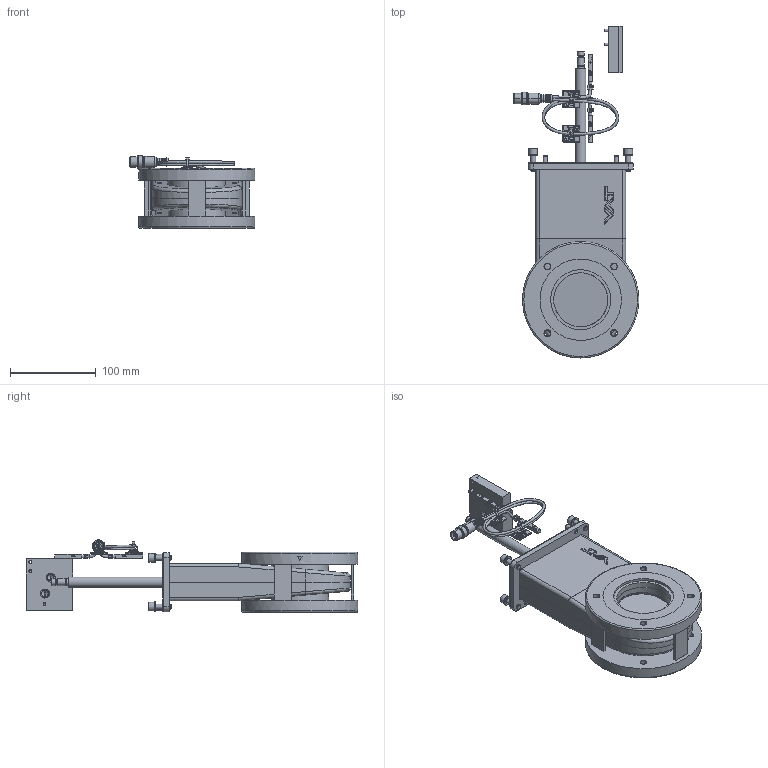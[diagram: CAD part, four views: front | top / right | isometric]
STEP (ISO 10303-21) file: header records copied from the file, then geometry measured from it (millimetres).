
FILE_DESCRIPTION(/* description */ (''),/* implementation_level */ '2;1');
FILE_NAME(/* name */ '1437840220_203.stp',/* time_stamp */ '2021-10-22T11:23:56+02:00',/* author */ (''),/* organization */ (''),/* preprocessor_version */ 'ST-DEVELOPER v16.7',/* originating_system */ 'SIEMENS PLM Software NX 1915',/* authorisation */ '');
FILE_SCHEMA (('AP203_CONFIGURATION_CONTROLLED_3D_DESIGN_OF_MECHANICAL_PARTS_AND_ASSEMBLIES_MIM_LF { 1 0 10303 403 2 1 2}'));
Length unit declared in the file: millimetre
Products named in the file (25): 359586.6_32895ID; 255554.2_32893ID; 359586.6_32421ID; 408099; 990068; 487660; 411636_32930ID; 957161; 343001.1; 1082168; 1041281; 251262.4; 255557.2; 255556.2_114268ID; 255556.2; 984070; 1085547; 255550.3; n-6134-408; 218189; 1081830_NX-ARRAGMNTDN050/63, Standard v3 ; 1004802_NX-ARRAGMNTopen ohne SV; 359599.5_NX-ARRAGMNTZusammenstellung_STANDARD; 359604.6; 1095386
Assembly tree (39 placements, depth 4):
  1095386
    218189  x4
    n-6134-408  x4
    255550.3
    359604.6
      255556.2
      255556.2_114268ID
      359599.5_NX-ARRAGMNTZusammenstellung_STANDARD
        359586.6_32421ID
        255554.2_32893ID
        359586.6_32895ID
      255557.2  x2
      251262.4  x3
    1004802_NX-ARRAGMNTopen ohne SV
      1041281
      1082168
      343001.1  x2
      957161  x2
    1081830_NX-ARRAGMNTDN050/63, Standard v3 
      411636_32930ID
      487660  x2
      990068
      408099  x2
    1085547  x2
    984070  x2
Bounding box: 146.8 x 387.5 x 84.4 mm (x, y, z)
Volume: 646254.3 mm3; surface area: 367720.7 mm2
Topology: 50 solids, 50 shells, 2194 faces, 5573 edges, 3550 vertices
Faces by surface type: plane 1128, cylinder 500, bspline 242, cone 128, torus 84, sphere 52, extrusion 48, revolution 12
Full cylindrical faces by diameter (mm): 2.46 x2, 2.5 x2, 2.9 x2, 3 x4, 3.5 x1, 4 x2, 4.96 x4, 5 x13, 5.2 x2, 5.22 x4, 5.5 x2, 6 x9, 6.4 x5, 6.5 x5, 7.2 x8, 8 x3, 10 x4, 11 x5, 12 x1, 25.345 x1, 63.1 x4, 63.35 x6, 67.1 x2, 67.6 x2, 70.1 x2, 135.8 x2
Entity records: 62010 total; most frequent: CARTESIAN_POINT 20067, ORIENTED_EDGE 8170, DIRECTION 6852, EDGE_CURVE 4085, VERTEX_POINT 2745, AXIS2_PLACEMENT_3D 2358, VECTOR 2130, LINE 2082
